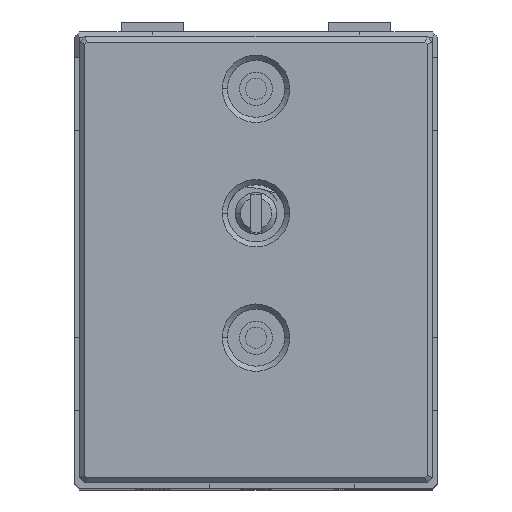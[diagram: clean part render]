
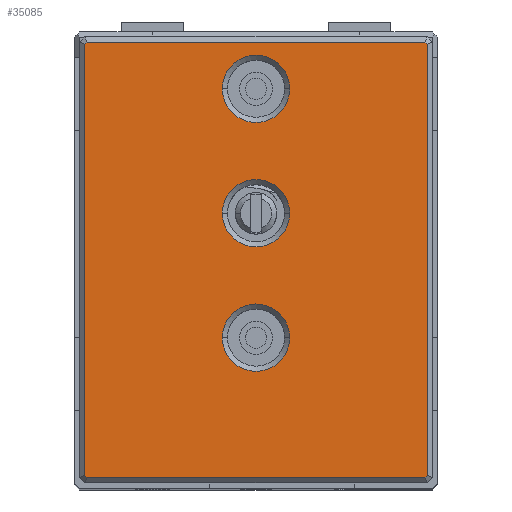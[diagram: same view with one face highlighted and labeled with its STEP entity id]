
A CAD part, top view. The second image highlights one B-rep face of the part: STEP entity #35085.
In plain terms, the highlighted planar face has unit normal (0, 0, 1).
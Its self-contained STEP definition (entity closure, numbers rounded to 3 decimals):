
#180 = DIRECTION ( 'NONE',  ( 1., 0., 0. ) ) ;
#652 = CARTESIAN_POINT ( 'NONE',  ( 0.707, 42.5, 5. ) ) ;
#706 = DIRECTION ( 'NONE',  ( 1., 0., 0. ) ) ;
#1228 = CARTESIAN_POINT ( 'NONE',  ( 33.293, 0.5, 5. ) ) ;
#1477 = LINE ( 'NONE', #31565, #34530 ) ;
#1498 = CARTESIAN_POINT ( 'NONE',  ( 0.5, 0.5, 5. ) ) ;
#2008 = VERTEX_POINT ( 'NONE', #1228 ) ;
#2058 = VECTOR ( 'NONE', #33207, 1000. ) ;
#2077 = CIRCLE ( 'NONE', #21379, 3.25 ) ;
#2241 = DIRECTION ( 'NONE',  ( 0., 0., -1. ) ) ;
#2274 = DIRECTION ( 'NONE',  ( 0., 1., 0. ) ) ;
#2381 = EDGE_LOOP ( 'NONE', ( #22555, #30477 ) ) ;
#2537 = VERTEX_POINT ( 'NONE', #652 ) ;
#2785 = EDGE_CURVE ( 'NONE', #32817, #9990, #11561, .T. ) ;
#2843 = EDGE_CURVE ( 'NONE', #27426, #27415, #35573, .T. ) ;
#3839 = LINE ( 'NONE', #4020, #33884 ) ;
#3856 = FACE_BOUND ( 'NONE', #2381, .T. ) ;
#4020 = CARTESIAN_POINT ( 'NONE',  ( 0.5, 42.5, 5. ) ) ;
#4401 = ORIENTED_EDGE ( 'NONE', *, *, #36274, .T. ) ;
#4466 = CARTESIAN_POINT ( 'NONE',  ( 17., 14., 5. ) ) ;
#4775 = EDGE_CURVE ( 'NONE', #16750, #15218, #29583, .T. ) ;
#4902 = DIRECTION ( 'NONE',  ( -1., 0., 0. ) ) ;
#5220 = DIRECTION ( 'NONE',  ( 0.707, 0.707, 0. ) ) ;
#5356 = EDGE_CURVE ( 'NONE', #6858, #20354, #19425, .T. ) ;
#5580 = LINE ( 'NONE', #30302, #18605 ) ;
#5833 = VECTOR ( 'NONE', #31757, 1000. ) ;
#5888 = DIRECTION ( 'NONE',  ( 0., 0., -1. ) ) ;
#6504 = DIRECTION ( 'NONE',  ( 1., 0., 0. ) ) ;
#6786 = FACE_BOUND ( 'NONE', #10792, .T. ) ;
#6858 = VERTEX_POINT ( 'NONE', #30255 ) ;
#7415 = DIRECTION ( 'NONE',  ( 1., 0., 0. ) ) ;
#7434 = VECTOR ( 'NONE', #23500, 1000. ) ;
#7567 = DIRECTION ( 'NONE',  ( 1., 0., 0. ) ) ;
#7727 = CARTESIAN_POINT ( 'NONE',  ( 0.5, 42.293, 5. ) ) ;
#7912 = DIRECTION ( 'NONE',  ( 1., 0., 0. ) ) ;
#8276 = EDGE_CURVE ( 'NONE', #15218, #34404, #17645, .T. ) ;
#8435 = DIRECTION ( 'NONE',  ( 0., 0., -1. ) ) ;
#9211 = CARTESIAN_POINT ( 'NONE',  ( 33.293, 42.5, 5. ) ) ;
#9336 = VERTEX_POINT ( 'NONE', #14605 ) ;
#9417 = CARTESIAN_POINT ( 'NONE',  ( 17., 26., 5. ) ) ;
#9587 = DIRECTION ( 'NONE',  ( 0., 0., -1. ) ) ;
#9990 = VERTEX_POINT ( 'NONE', #29899 ) ;
#10792 = EDGE_LOOP ( 'NONE', ( #33579, #13284 ) ) ;
#11138 = EDGE_CURVE ( 'NONE', #2008, #16750, #5580, .T. ) ;
#11502 = AXIS2_PLACEMENT_3D ( 'NONE', #35023, #34667, #15748 ) ;
#11560 = CIRCLE ( 'NONE', #32060, 3.25 ) ;
#11561 = CIRCLE ( 'NONE', #32653, 3.25 ) ;
#11708 = LINE ( 'NONE', #34639, #27897 ) ;
#11967 = EDGE_CURVE ( 'NONE', #2537, #33750, #1477, .T. ) ;
#12657 = DIRECTION ( 'NONE',  ( -0.707, -0.707, 0. ) ) ;
#13009 = CARTESIAN_POINT ( 'NONE',  ( 13.75, 26., 5. ) ) ;
#13125 = CIRCLE ( 'NONE', #27730, 3.25 ) ;
#13284 = ORIENTED_EDGE ( 'NONE', *, *, #2785, .T. ) ;
#13583 = CARTESIAN_POINT ( 'NONE',  ( 0.854, 0.354, 5. ) ) ;
#14605 = CARTESIAN_POINT ( 'NONE',  ( 20.25, 14., 5. ) ) ;
#14919 = EDGE_CURVE ( 'NONE', #15952, #9336, #31522, .T. ) ;
#15218 = VERTEX_POINT ( 'NONE', #34331 ) ;
#15748 = DIRECTION ( 'NONE',  ( 1., 0., 0. ) ) ;
#15830 = ORIENTED_EDGE ( 'NONE', *, *, #8276, .T. ) ;
#15852 = EDGE_CURVE ( 'NONE', #34404, #2537, #3839, .T. ) ;
#15952 = VERTEX_POINT ( 'NONE', #29991 ) ;
#16750 = VERTEX_POINT ( 'NONE', #19144 ) ;
#17645 = LINE ( 'NONE', #26429, #7434 ) ;
#18605 = VECTOR ( 'NONE', #5220, 1000. ) ;
#19144 = CARTESIAN_POINT ( 'NONE',  ( 33.5, 0.707, 5. ) ) ;
#19425 = LINE ( 'NONE', #13583, #2058 ) ;
#20142 = DIRECTION ( 'NONE',  ( 1., 0., 0. ) ) ;
#20354 = VERTEX_POINT ( 'NONE', #34832 ) ;
#20480 = EDGE_LOOP ( 'NONE', ( #23414, #33134, #34201, #32169, #34769, #15830, #34316, #32679 ) ) ;
#21261 = LINE ( 'NONE', #1498, #5833 ) ;
#21379 = AXIS2_PLACEMENT_3D ( 'NONE', #35262, #2241, #7567 ) ;
#22082 = AXIS2_PLACEMENT_3D ( 'NONE', #34294, #25116, #20142 ) ;
#22212 = EDGE_CURVE ( 'NONE', #33750, #6858, #21261, .T. ) ;
#22555 = ORIENTED_EDGE ( 'NONE', *, *, #33868, .T. ) ;
#23414 = ORIENTED_EDGE ( 'NONE', *, *, #22212, .T. ) ;
#23458 = FACE_BOUND ( 'NONE', #32995, .T. ) ;
#23500 = DIRECTION ( 'NONE',  ( -0.707, 0.707, 0. ) ) ;
#24000 = FACE_OUTER_BOUND ( 'NONE', #20480, .T. ) ;
#24237 = DIRECTION ( 'NONE',  ( 0., 0., -1. ) ) ;
#25116 = DIRECTION ( 'NONE',  ( 0., 0., -1. ) ) ;
#26429 = CARTESIAN_POINT ( 'NONE',  ( 33.146, 42.646, 5. ) ) ;
#26741 = PLANE ( 'NONE',  #11502 ) ;
#27017 = CARTESIAN_POINT ( 'NONE',  ( 33.5, 42.5, 5. ) ) ;
#27415 = VERTEX_POINT ( 'NONE', #30447 ) ;
#27426 = VERTEX_POINT ( 'NONE', #35961 ) ;
#27730 = AXIS2_PLACEMENT_3D ( 'NONE', #9417, #9587, #6504 ) ;
#27897 = VECTOR ( 'NONE', #706, 1000. ) ;
#28399 = CARTESIAN_POINT ( 'NONE',  ( 17., 26., 5. ) ) ;
#28682 = EDGE_CURVE ( 'NONE', #20354, #2008, #11708, .T. ) ;
#29583 = LINE ( 'NONE', #27017, #30960 ) ;
#29899 = CARTESIAN_POINT ( 'NONE',  ( 20.25, 26., 5. ) ) ;
#29991 = CARTESIAN_POINT ( 'NONE',  ( 13.75, 14., 5. ) ) ;
#30255 = CARTESIAN_POINT ( 'NONE',  ( 0.5, 0.707, 5. ) ) ;
#30302 = CARTESIAN_POINT ( 'NONE',  ( 33.646, 0.854, 5. ) ) ;
#30447 = CARTESIAN_POINT ( 'NONE',  ( 20.25, 38., 5. ) ) ;
#30477 = ORIENTED_EDGE ( 'NONE', *, *, #2843, .T. ) ;
#30960 = VECTOR ( 'NONE', #2274, 1000. ) ;
#31522 = CIRCLE ( 'NONE', #32109, 3.25 ) ;
#31565 = CARTESIAN_POINT ( 'NONE',  ( 0.354, 42.146, 5. ) ) ;
#31728 = ORIENTED_EDGE ( 'NONE', *, *, #14919, .T. ) ;
#31757 = DIRECTION ( 'NONE',  ( 0., -1., 0. ) ) ;
#32012 = EDGE_CURVE ( 'NONE', #9990, #32817, #13125, .T. ) ;
#32060 = AXIS2_PLACEMENT_3D ( 'NONE', #33746, #8435, #7415 ) ;
#32109 = AXIS2_PLACEMENT_3D ( 'NONE', #4466, #24237, #7912 ) ;
#32169 = ORIENTED_EDGE ( 'NONE', *, *, #11138, .T. ) ;
#32653 = AXIS2_PLACEMENT_3D ( 'NONE', #28399, #5888, #180 ) ;
#32679 = ORIENTED_EDGE ( 'NONE', *, *, #11967, .T. ) ;
#32817 = VERTEX_POINT ( 'NONE', #13009 ) ;
#32995 = EDGE_LOOP ( 'NONE', ( #4401, #31728 ) ) ;
#33134 = ORIENTED_EDGE ( 'NONE', *, *, #5356, .T. ) ;
#33207 = DIRECTION ( 'NONE',  ( 0.707, -0.707, 0. ) ) ;
#33579 = ORIENTED_EDGE ( 'NONE', *, *, #32012, .T. ) ;
#33746 = CARTESIAN_POINT ( 'NONE',  ( 17., 14., 5. ) ) ;
#33750 = VERTEX_POINT ( 'NONE', #7727 ) ;
#33868 = EDGE_CURVE ( 'NONE', #27415, #27426, #2077, .T. ) ;
#33884 = VECTOR ( 'NONE', #4902, 1000. ) ;
#34201 = ORIENTED_EDGE ( 'NONE', *, *, #28682, .T. ) ;
#34294 = CARTESIAN_POINT ( 'NONE',  ( 17., 38., 5. ) ) ;
#34316 = ORIENTED_EDGE ( 'NONE', *, *, #15852, .T. ) ;
#34331 = CARTESIAN_POINT ( 'NONE',  ( 33.5, 42.293, 5. ) ) ;
#34404 = VERTEX_POINT ( 'NONE', #9211 ) ;
#34530 = VECTOR ( 'NONE', #12657, 1000. ) ;
#34639 = CARTESIAN_POINT ( 'NONE',  ( 33.5, 0.5, 5. ) ) ;
#34667 = DIRECTION ( 'NONE',  ( 0., 0., 1. ) ) ;
#34769 = ORIENTED_EDGE ( 'NONE', *, *, #4775, .T. ) ;
#34832 = CARTESIAN_POINT ( 'NONE',  ( 0.707, 0.5, 5. ) ) ;
#35023 = CARTESIAN_POINT ( 'NONE',  ( 0., 0., 5. ) ) ;
#35085 = ADVANCED_FACE ( 'NONE', ( #24000, #6786, #23458, #3856 ), #26741, .T. ) ;
#35262 = CARTESIAN_POINT ( 'NONE',  ( 17., 38., 5. ) ) ;
#35573 = CIRCLE ( 'NONE', #22082, 3.25 ) ;
#35961 = CARTESIAN_POINT ( 'NONE',  ( 13.75, 38., 5. ) ) ;
#36274 = EDGE_CURVE ( 'NONE', #9336, #15952, #11560, .T. ) ;
